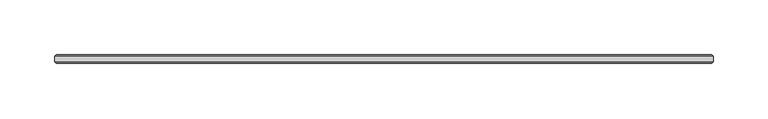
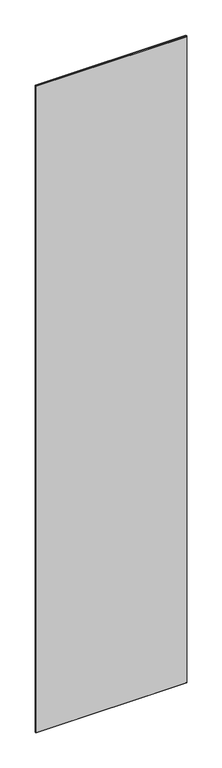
"""IFC4 building model written with IfcOpenShell, lengths in millimetres: plate geometry, 1-AMG-1-Панель одинарный витраж 8, 10 : Смещение 32 Толщина 8mm."""

from ifc_helpers import new_model, si_unit, origin, place, context, project, spatial, faceted_brep, source, transform, mapped, element, save


def plate_f9840016(model_context):
    return source(origin(), model_context, "Body", "Brep", [
        faceted_brep([(319.45, -29.5038347, 2722.8), (-282.45, -29.5038347, 2722.8), (-282.45, -34.4961653, 2722.8), (319.45, -34.4961653, 2722.8), (319.45, -34.5039422, -7.0), (-282.45, -34.5039422, -7.0), (-282.45, -29.5038347, -7.0), (319.45, -29.5038347, -7.0), (-280.9461653, -36.0, 2721.2961653), (-280.9461653, -36.0, -5.5039422), (317.9461653, -36.0, -5.5039422), (317.9461653, -36.0, 2721.2961653), (317.9461653, -28.0, 2721.2961653), (317.9461653, -28.0, -5.4961653), (-280.9461653, -28.0, -5.4961653), (-280.9461653, -28.0, 2721.2961653)], [[[0, 1, 2, 3]], [[4, 5, 6, 7]], [[8, 9, 10, 11]], [[1, 6, 5, 2]], [[12, 13, 14, 15]], [[3, 4, 7, 0]], [[3, 11, 10, 4]], [[7, 13, 12, 0]], [[5, 9, 8, 2]], [[1, 15, 14, 6]], [[0, 12, 15, 1]], [[2, 8, 11, 3]], [[6, 14, 13, 7]], [[4, 10, 9, 5]]]),
    ])


if __name__ == "__main__":
    model = new_model("IFC4")
    model_context = context("Model", 3, world=origin())
    ifc_project = project(units=[si_unit("LENGTHUNIT", "METRE", prefix="MILLI")], contexts=[model_context])
    site = spatial("IfcSite", under=ifc_project)
    building = spatial("IfcBuilding", under=site)
    placement = place(None, origin())
    plate_shape = plate_f9840016(model_context)
    element("IfcPlate", 1, ObjectType="1-AMG-1-Панель одинарный витраж 8, 10 : Смещение 32 Толщина 8mm", at=placement, inside=building, context=model_context, shape_type="MappedRepresentation", body=[
        mapped(plate_shape, transform((0.0, 0.0, 0.0), x_axis=(1.0, 0.0, 0.0), y_axis=(0.0, 1.0, 0.0), z_axis=(0.0, 0.0, 1.0))),
    ])
    save(model, "model.ifc")
